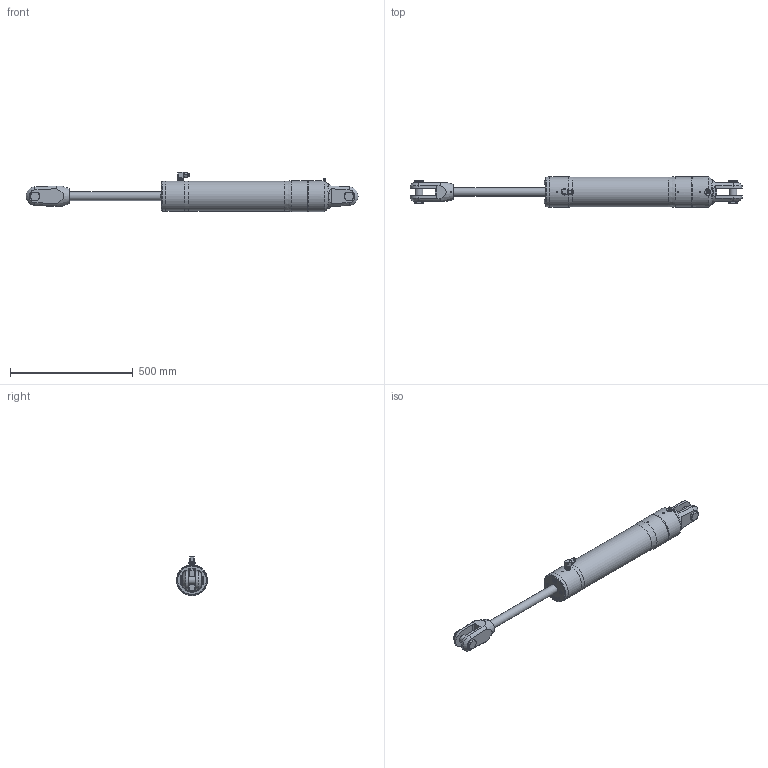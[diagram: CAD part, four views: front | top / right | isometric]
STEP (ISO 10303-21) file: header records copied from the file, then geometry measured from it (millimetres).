
FILE_DESCRIPTION(/* description */ (''),/* implementation_level */ '2;1');
FILE_NAME(/* name */ 'Q:\AA BRAND HYDRAULICS\HYDRAULICS FAMILY DIRECTORY\HYDRAULICS\CYLINDERS\RAMS\STAINLESS - STANDARD SINGLE ACTING (-0006 To -0260)\RSS-0076-S0375-NP-71\RSS-0076-S0375-NP-71 (Open).stp',/* time_stamp */ '2018-02-07T17:00:26+00:00',/* author */ ('Lorena'),/* organization */ (''),/* preprocessor_version */ 'ST-DEVELOPER v17',/* originating_system */ 'Autodesk Inventor 2018',/* authorisation */ '');
FILE_SCHEMA (('AUTOMOTIVE_DESIGN { 1 0 10303 214 3 1 1 }'));
Length unit declared in the file: millimetre
Products named in the file (1): RSS-0076-S0375-NP-71 (Open)
Bounding box: 1353.42 x 125.6 x 160.15 mm (x, y, z)
Volume: 9502782.5 mm3; surface area: 439790.6 mm2
Topology: 2 solids, 6 shells, 1787 faces, 4814 edges, 3186 vertices
Faces by surface type: plane 1013, bspline 574, cone 111, cylinder 81, torus 4, sphere 4
Full cylindrical faces by diameter (mm): 4 x1, 4.134 x1, 5 x5, 7 x1, 7.5 x1, 8 x2, 8.1 x1, 9 x3, 10 x2, 14 x1, 14.35 x1, 14.662 x1, 15 x2, 15.662 x1, 16.662 x2, 18 x2, 20 x2, 21.4 x3, 25 x1, 31.75 x2, 35 x1, 37 x1, 39.688 x2, 54.51 x1, 54.511 x1, 119 x1, 120.6 x1, 123.6 x1, 124.6 x1, 125.6 x2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
Entity records: 63618 total; most frequent: CARTESIAN_POINT 21210, ORIENTED_EDGE 9612, DIRECTION 6322, EDGE_CURVE 4806, VERTEX_POINT 3188, LINE 2976, VECTOR 2976, EDGE_LOOP 1956
